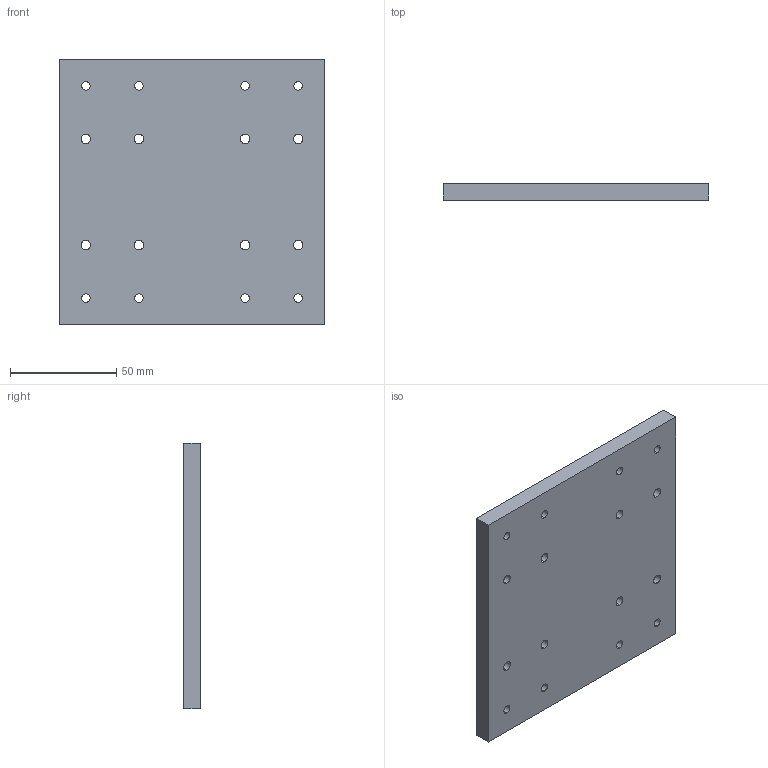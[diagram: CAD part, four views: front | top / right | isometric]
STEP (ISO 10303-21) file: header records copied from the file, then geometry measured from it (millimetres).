
FILE_DESCRIPTION (( 'STEP AP203' ), '1' );
FILE_NAME ('SS-101.STEP', '2024-02-05T03:42:21', ( '' ), ( '' ), 'SwSTEP 2.0', 'SolidWorks 2021', '' );
FILE_SCHEMA (( 'CONFIG_CONTROL_DESIGN' ));
Length unit declared in the file: millimetre
Products named in the file (2): SS-101
Assembly tree (1 placements, depth 2):
  SS-101
    SS-101
Bounding box: 125 x 8 x 125 mm (x, y, z)
Volume: 122160 mm3; surface area: 36842.8 mm2
Topology: 1 solids, 1 shells, 62 faces, 156 edges, 104 vertices
Faces by surface type: cylinder 48, plane 14
Entity records: 2176 total; most frequent: DIRECTION 384, CARTESIAN_POINT 326, ORIENTED_EDGE 312, AXIS2_PLACEMENT_3D 162, EDGE_CURVE 156, VERTEX_POINT 104, EDGE_LOOP 102, CIRCLE 96
